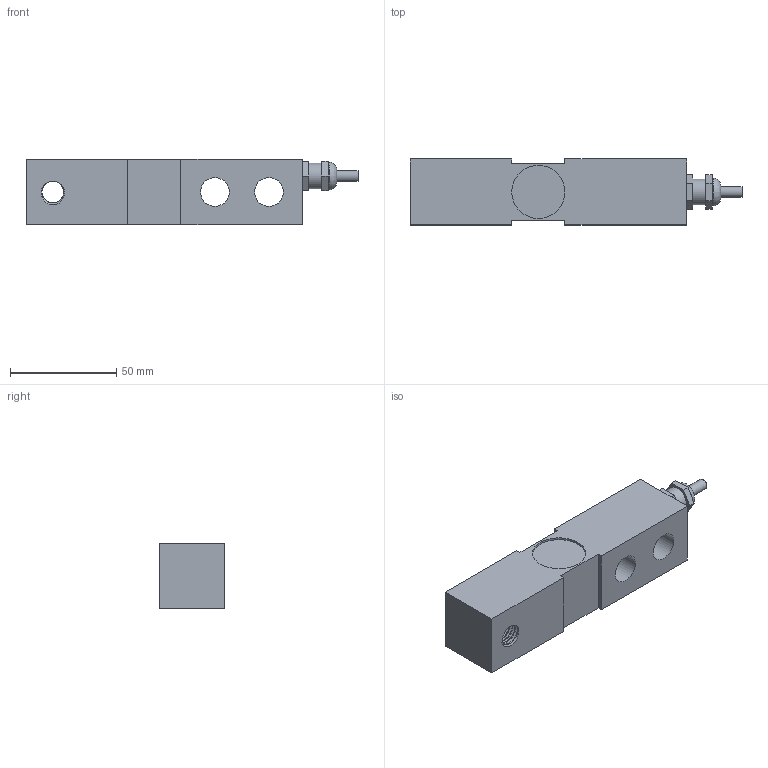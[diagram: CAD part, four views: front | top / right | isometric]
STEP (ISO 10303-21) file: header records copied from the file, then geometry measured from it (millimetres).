
FILE_DESCRIPTION(/* description */ (''),/* implementation_level */ '2;1');
FILE_NAME(/* name */ 'C:/Users/fardi/Dropbox/Anyload/Load Cell Models/3D Drawing/563/563YS, 563YS30/563YS-(250-2000)kg v3.step',/* time_stamp */ '2020-02-06T14:56:20-08:00',/* author */ (''),/* organization */ (''),/* preprocessor_version */ 'ST-DEVELOPER v18',/* originating_system */ 'Autodesk Translation Framework v8.12.0.6',/* authorisation */ '');
FILE_SCHEMA (('AUTOMOTIVE_DESIGN { 1 0 10303 214 3 1 1 }'));
Length unit declared in the file: millimetre
Products named in the file (2): 563YS-(250-2000)kg; Connector
Assembly tree (1 placements, depth 2):
  563YS-(250-2000)kg
    Connector
Bounding box: 156.03 x 31 x 31 mm (x, y, z)
Volume: 110500.7 mm3; surface area: 23396.7 mm2
Topology: 2 solids, 2 shells, 73 faces, 177 edges, 116 vertices
Faces by surface type: plane 36, cylinder 33, bspline 3, cone 1
Full cylindrical faces by diameter (mm): 5.1 x1, 10 x1, 10.274 x9, 12 x2, 12.226 x10, 13 x1, 13.5 x3, 25 x2
Entity records: 4502 total; most frequent: CARTESIAN_POINT 2793, ORIENTED_EDGE 352, DIRECTION 308, EDGE_CURVE 176, VERTEX_POINT 116, LINE 104, VECTOR 104, AXIS2_PLACEMENT_3D 102
